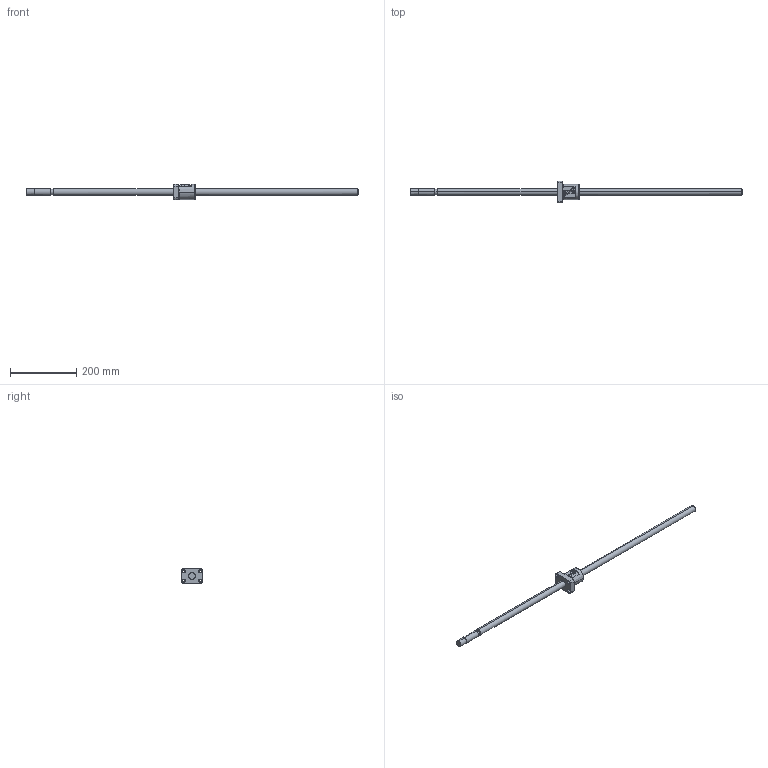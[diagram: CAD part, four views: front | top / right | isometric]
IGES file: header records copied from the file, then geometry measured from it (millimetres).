
Global section: file name: No Iges File Name specified; native system: AutoDesk Inventor R10; preprocessor: AutoDesk Inventor Iges Exporter R10; author: No Author specified; organization: No Organization specified; date: 20101224.141410; units: millimetre
Bounding box: 1005 x 66 x 46 mm (x, y, z)
Surface area: 86104.3 mm2 (no closed solid volume)
Topology: 0 solids, 0 shells, 132 faces, 966 edges, 966 vertices
Faces by surface type: bspline 132
